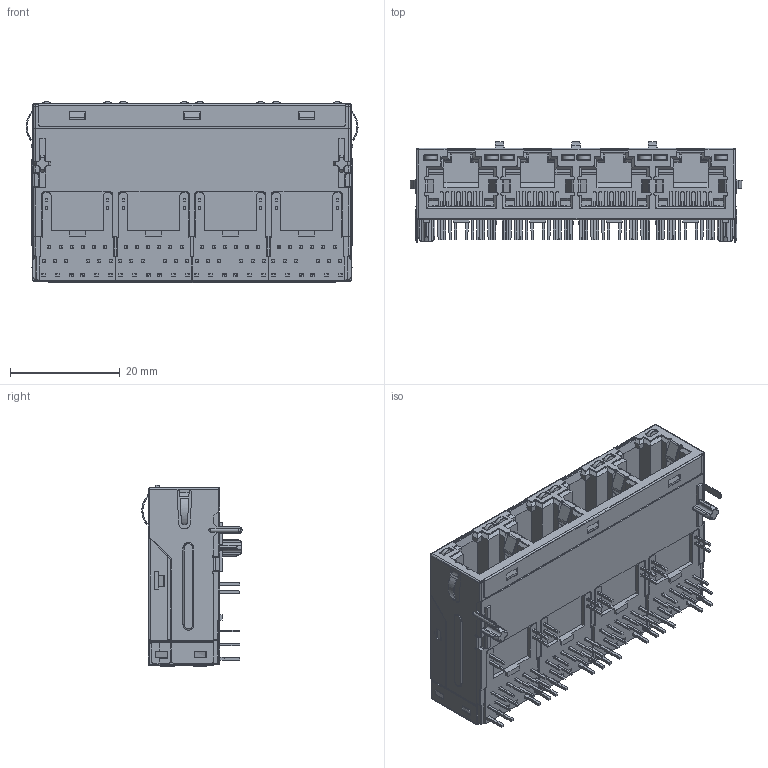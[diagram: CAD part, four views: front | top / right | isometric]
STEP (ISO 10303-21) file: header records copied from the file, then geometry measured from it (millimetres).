
FILE_DESCRIPTION((''),'2;1');
FILE_NAME('T18D-364','2018-08-07T',('V095'),(''),'PRO/ENGINEER BY PARAMETRIC TECHNOLOGY CORPORATION, 2010180','PRO/ENGINEER BY PARAMETRIC TECHNOLOGY CORPORATION, 2010180','');
FILE_SCHEMA(('AUTOMOTIVE_DESIGN_CC2 { 1 2 10303 214 -1 1 5 2 }'));
Products named in the file (1): T18D-364
Bounding box: 60.62 x 18.33 x 33.07 mm (x, y, z)
Volume: 11013.1 mm3; surface area: 34965 mm2
Topology: 1 solids, 1 shells, 7855 faces, 23939 edges, 15706 vertices
Faces by surface type: plane 6650, cylinder 1129, bspline 48, sphere 12, torus 8, cone 8
Entity records: 310188 total; most frequent: CARTESIAN_POINT 50281, ORIENTED_EDGE 47862, DIRECTION 41611, EDGE_CURVE 23931, VECTOR 21401, LINE 21401, VERTEX_POINT 15706, AXIS2_PLACEMENT_3D 10105
